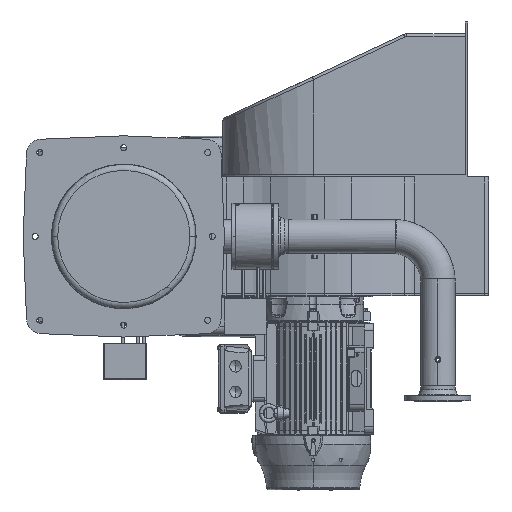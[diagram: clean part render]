
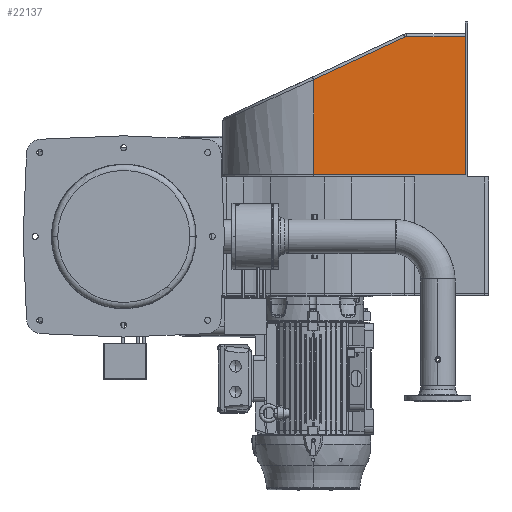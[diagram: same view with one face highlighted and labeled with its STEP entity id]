
A CAD part, left-side view. The second image highlights one B-rep face of the part: STEP entity #22137.
In plain terms, the highlighted planar face has unit normal (-1, 0, 0).
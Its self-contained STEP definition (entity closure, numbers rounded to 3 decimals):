
#5653 = ORIENTED_EDGE ( 'NONE', *, *, #118566, .F. ) ;
#9987 = CARTESIAN_POINT ( 'NONE',  ( -300., -169.974, 206. ) ) ;
#17225 = EDGE_CURVE ( 'NONE', #89262, #283269, #302435, .T. ) ;
#22137 = ADVANCED_FACE ( 'NONE', ( #158670 ), #280360, .F. ) ;
#25386 = EDGE_CURVE ( 'NONE', #89262, #207384, #304879, .T. ) ;
#35858 = VERTEX_POINT ( 'NONE', #164942 ) ;
#44518 = EDGE_CURVE ( 'NONE', #35858, #283269, #191328, .T. ) ;
#46585 = ORIENTED_EDGE ( 'NONE', *, *, #17225, .T. ) ;
#50800 = CARTESIAN_POINT ( 'NONE',  ( -300., -507., 512. ) ) ;
#52039 = CARTESIAN_POINT ( 'NONE',  ( -300., -306.327, 664.119 ) ) ;
#53070 = CARTESIAN_POINT ( 'NONE',  ( -300., -1.461, 521.957 ) ) ;
#59560 = CARTESIAN_POINT ( 'NONE',  ( -300., -507., 665. ) ) ;
#65047 = DIRECTION ( 'NONE',  ( 1., 0., 0. ) ) ;
#66580 = CARTESIAN_POINT ( 'NONE',  ( -300., -311.321, 651. ) ) ;
#84831 = CARTESIAN_POINT ( 'NONE',  ( -300., -1.461, 521.957 ) ) ;
#89262 = VERTEX_POINT ( 'NONE', #117847 ) ;
#100313 = CARTESIAN_POINT ( 'NONE',  ( -300., -309.284, 664.889 ) ) ;
#105061 = CARTESIAN_POINT ( 'NONE',  ( -300., -1.461, 206. ) ) ;
#111825 = DIRECTION ( 'NONE',  ( 0., 1., 0. ) ) ;
#112670 = CARTESIAN_POINT ( 'NONE',  ( -300., -1.461, 521.957 ) ) ;
#114219 = CARTESIAN_POINT ( 'NONE',  ( -300., -102.775, 569.201 ) ) ;
#117847 = CARTESIAN_POINT ( 'NONE',  ( -300., -507., 206. ) ) ;
#118566 = EDGE_CURVE ( 'NONE', #214719, #287248, #307774, .T. ) ;
#137664 = CARTESIAN_POINT ( 'NONE',  ( -300., -305.404, 663.688 ) ) ;
#147185 = CARTESIAN_POINT ( 'NONE',  ( -300., -307.297, 664.448 ) ) ;
#154579 = ORIENTED_EDGE ( 'NONE', *, *, #44518, .F. ) ;
#158670 = FACE_OUTER_BOUND ( 'NONE', #274434, .T. ) ;
#164942 = CARTESIAN_POINT ( 'NONE',  ( -300., -311.321, 665. ) ) ;
#165333 = AXIS2_PLACEMENT_3D ( 'NONE', #66580, #65047, #111825 ) ;
#173856 = CARTESIAN_POINT ( 'NONE',  ( -300., -507., 206. ) ) ;
#178129 = CARTESIAN_POINT ( 'NONE',  ( -300., -311.321, 665. ) ) ;
#191328 = B_SPLINE_CURVE_WITH_KNOTS ( 'NONE', 3,
 ( #178129, #229574, #204633, #59560 ),
 .UNSPECIFIED., .F., .F.,
 ( 4, 4 ),
 ( 0., 1. ),
 .UNSPECIFIED. ) ;
#194295 = EDGE_CURVE ( 'NONE', #287248, #35858, #221013, .T. ) ;
#196321 = ORIENTED_EDGE ( 'NONE', *, *, #207082, .F. ) ;
#204633 = CARTESIAN_POINT ( 'NONE',  ( -300., -441.774, 665. ) ) ;
#207082 = EDGE_CURVE ( 'NONE', #207384, #214719, #246044, .T. ) ;
#207384 = VERTEX_POINT ( 'NONE', #238853 ) ;
#210039 = CARTESIAN_POINT ( 'NONE',  ( -300., -507., 665. ) ) ;
#212499 = ORIENTED_EDGE ( 'NONE', *, *, #25386, .F. ) ;
#214719 = VERTEX_POINT ( 'NONE', #53070 ) ;
#215443 = CARTESIAN_POINT ( 'NONE',  ( -300., -305.404, 663.688 ) ) ;
#221013 = B_SPLINE_CURVE_WITH_KNOTS ( 'NONE', 3,
 ( #289199, #52039, #147185, #100313, #290739, #228201 ),
 .UNSPECIFIED., .F., .F.,
 ( 4, 2, 4 ),
 ( 0., 0.5, 1. ),
 .UNSPECIFIED. ) ;
#223764 = CARTESIAN_POINT ( 'NONE',  ( -300., -338.487, 206. ) ) ;
#228201 = CARTESIAN_POINT ( 'NONE',  ( -300., -311.321, 665. ) ) ;
#229574 = CARTESIAN_POINT ( 'NONE',  ( -300., -376.547, 665. ) ) ;
#230015 = ORIENTED_EDGE ( 'NONE', *, *, #194295, .F. ) ;
#236722 = CARTESIAN_POINT ( 'NONE',  ( -300., -507., 665. ) ) ;
#238853 = CARTESIAN_POINT ( 'NONE',  ( -300., -1.461, 206. ) ) ;
#246044 = B_SPLINE_CURVE_WITH_KNOTS ( 'NONE', 1,
 ( #298676, #84831 ),
 .UNSPECIFIED., .F., .F.,
 ( 2, 2 ),
 ( 0., 1. ),
 .UNSPECIFIED. ) ;
#264570 = CARTESIAN_POINT ( 'NONE',  ( -300., -507., 359. ) ) ;
#274434 = EDGE_LOOP ( 'NONE', ( #154579, #230015, #5653, #196321, #212499, #46585 ) ) ;
#280360 = PLANE ( 'NONE',  #165333 ) ;
#283269 = VERTEX_POINT ( 'NONE', #236722 ) ;
#284870 = CARTESIAN_POINT ( 'NONE',  ( -300., -507., 206. ) ) ;
#287248 = VERTEX_POINT ( 'NONE', #215443 ) ;
#289199 = CARTESIAN_POINT ( 'NONE',  ( -300., -305.404, 663.688 ) ) ;
#290739 = CARTESIAN_POINT ( 'NONE',  ( -300., -310.303, 665. ) ) ;
#298676 = CARTESIAN_POINT ( 'NONE',  ( -300., -1.461, 206. ) ) ;
#302435 = B_SPLINE_CURVE_WITH_KNOTS ( 'NONE', 3,
 ( #284870, #264570, #50800, #210039 ),
 .UNSPECIFIED., .F., .F.,
 ( 4, 4 ),
 ( 0., 1. ),
 .UNSPECIFIED. ) ;
#303087 = CARTESIAN_POINT ( 'NONE',  ( -300., -204.09, 616.445 ) ) ;
#304879 = B_SPLINE_CURVE_WITH_KNOTS ( 'NONE', 3,
 ( #173856, #223764, #9987, #105061 ),
 .UNSPECIFIED., .F., .F.,
 ( 4, 4 ),
 ( 0., 1. ),
 .UNSPECIFIED. ) ;
#307774 = B_SPLINE_CURVE_WITH_KNOTS ( 'NONE', 3,
 ( #112670, #114219, #303087, #137664 ),
 .UNSPECIFIED., .F., .F.,
 ( 4, 4 ),
 ( 0., 1. ),
 .UNSPECIFIED. ) ;
